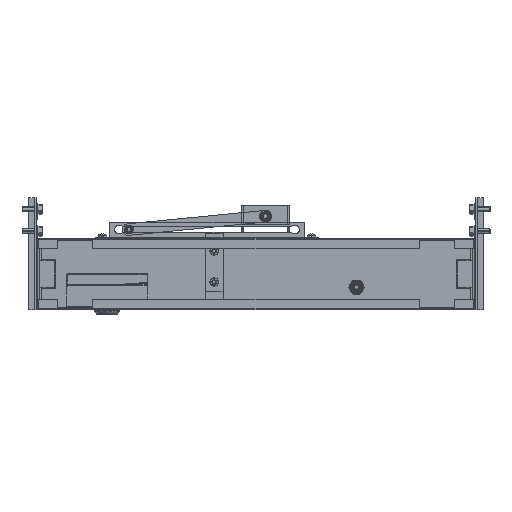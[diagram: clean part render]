
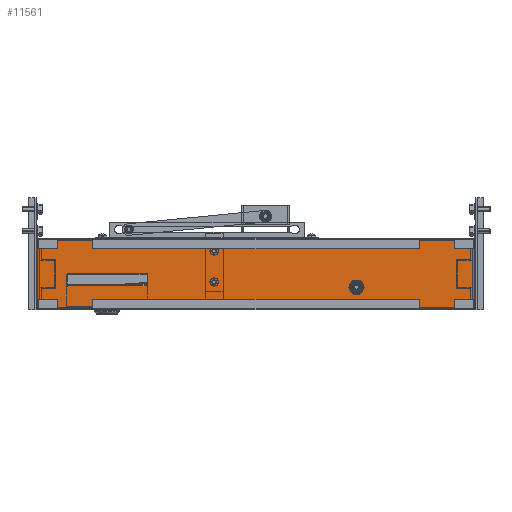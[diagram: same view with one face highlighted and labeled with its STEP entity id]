
A CAD part, front view. The second image highlights one B-rep face of the part: STEP entity #11561.
In plain terms, the highlighted planar face has unit normal (0, -1, 0).
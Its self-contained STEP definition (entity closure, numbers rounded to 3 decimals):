
#9653 = VERTEX_POINT('',#9654);
#9654 = CARTESIAN_POINT('',(-47.,-1.5,-6.9));
#9672 = VERTEX_POINT('',#9673);
#9673 = CARTESIAN_POINT('',(-47.,-1.5,-11.1));
#9679 = EDGE_CURVE('',#9653,#9672,#9680,.T.);
#9680 = CIRCLE('',#9681,2.1);
#9681 = AXIS2_PLACEMENT_3D('',#9682,#9683,#9684);
#9682 = CARTESIAN_POINT('',(-47.,-1.5,-9.));
#9683 = DIRECTION('',(0.,-1.,0.));
#9684 = DIRECTION('',(0.,0.,-1.));
#9695 = VERTEX_POINT('',#9696);
#9696 = CARTESIAN_POINT('',(-47.,-1.5,28.1));
#9714 = VERTEX_POINT('',#9715);
#9715 = CARTESIAN_POINT('',(-47.,-1.5,23.9));
#9721 = EDGE_CURVE('',#9695,#9714,#9722,.T.);
#9722 = CIRCLE('',#9723,2.1);
#9723 = AXIS2_PLACEMENT_3D('',#9724,#9725,#9726);
#9724 = CARTESIAN_POINT('',(-47.,-1.5,26.));
#9725 = DIRECTION('',(0.,-1.,0.));
#9726 = DIRECTION('',(0.,0.,-1.));
#9737 = VERTEX_POINT('',#9738);
#9738 = CARTESIAN_POINT('',(-122.5,-1.5,-13.6));
#9746 = EDGE_CURVE('',#9737,#9747,#9749,.T.);
#9747 = VERTEX_POINT('',#9748);
#9748 = CARTESIAN_POINT('',(-122.,-1.5,-13.6));
#9749 = LINE('',#9750,#9751);
#9750 = CARTESIAN_POINT('',(0.,-1.5,-13.6));
#9751 = VECTOR('',#9752,1.);
#9752 = DIRECTION('',(1.,0.,0.));
#11123 = VERTEX_POINT('',#11124);
#11124 = CARTESIAN_POINT('',(244.9,-1.5,-38.5));
#11130 = EDGE_CURVE('',#11131,#11123,#11133,.T.);
#11131 = VERTEX_POINT('',#11132);
#11132 = CARTESIAN_POINT('',(-244.9,-1.5,-38.5));
#11133 = LINE('',#11134,#11135);
#11134 = CARTESIAN_POINT('',(0.,-1.5,-38.5));
#11135 = VECTOR('',#11136,1.);
#11136 = DIRECTION('',(1.,0.,0.));
#11379 = VERTEX_POINT('',#11380);
#11380 = CARTESIAN_POINT('',(-244.9,-1.5,38.5));
#11386 = EDGE_CURVE('',#11387,#11379,#11389,.T.);
#11387 = VERTEX_POINT('',#11388);
#11388 = CARTESIAN_POINT('',(244.9,-1.5,38.5));
#11389 = LINE('',#11390,#11391);
#11390 = CARTESIAN_POINT('',(0.,-1.5,38.5));
#11391 = VECTOR('',#11392,1.);
#11392 = DIRECTION('',(-1.,0.,0.));
#11478 = EDGE_CURVE('',#11479,#11481,#11483,.T.);
#11479 = VERTEX_POINT('',#11480);
#11480 = CARTESIAN_POINT('',(-244.9,-1.5,-37.9));
#11481 = VERTEX_POINT('',#11482);
#11482 = CARTESIAN_POINT('',(-245.5,-1.5,-37.9));
#11483 = LINE('',#11484,#11485);
#11484 = CARTESIAN_POINT('',(0.,-1.5,-37.9));
#11485 = VECTOR('',#11486,1.);
#11486 = DIRECTION('',(-1.,-0.,-0.));
#11561 = ADVANCED_FACE('',(#11562,#11572,#11582,#11632,#11689),#11760,
  .T.);
#11562 = FACE_BOUND('',#11563,.T.);
#11563 = EDGE_LOOP('',(#11564,#11565));
#11564 = ORIENTED_EDGE('',*,*,#9679,.F.);
#11565 = ORIENTED_EDGE('',*,*,#11566,.F.);
#11566 = EDGE_CURVE('',#9672,#9653,#11567,.T.);
#11567 = CIRCLE('',#11568,2.1);
#11568 = AXIS2_PLACEMENT_3D('',#11569,#11570,#11571);
#11569 = CARTESIAN_POINT('',(-47.,-1.5,-9.));
#11570 = DIRECTION('',(0.,-1.,0.));
#11571 = DIRECTION('',(0.,0.,-1.));
#11572 = FACE_BOUND('',#11573,.T.);
#11573 = EDGE_LOOP('',(#11574,#11575));
#11574 = ORIENTED_EDGE('',*,*,#9721,.F.);
#11575 = ORIENTED_EDGE('',*,*,#11576,.F.);
#11576 = EDGE_CURVE('',#9714,#9695,#11577,.T.);
#11577 = CIRCLE('',#11578,2.1);
#11578 = AXIS2_PLACEMENT_3D('',#11579,#11580,#11581);
#11579 = CARTESIAN_POINT('',(-47.,-1.5,26.));
#11580 = DIRECTION('',(0.,-1.,0.));
#11581 = DIRECTION('',(0.,0.,-1.));
#11582 = FACE_BOUND('',#11583,.T.);
#11583 = EDGE_LOOP('',(#11584,#11594,#11602,#11610,#11618,#11626));
#11584 = ORIENTED_EDGE('',*,*,#11585,.F.);
#11585 = EDGE_CURVE('',#11586,#11588,#11590,.T.);
#11586 = VERTEX_POINT('',#11587);
#11587 = CARTESIAN_POINT('',(116.32,-1.5,-9.25));
#11588 = VERTEX_POINT('',#11589);
#11589 = CARTESIAN_POINT('',(109.68,-1.5,-9.25));
#11590 = LINE('',#11591,#11592);
#11591 = CARTESIAN_POINT('',(0.,-1.5,-9.25));
#11592 = VECTOR('',#11593,1.);
#11593 = DIRECTION('',(-1.,0.,0.));
#11594 = ORIENTED_EDGE('',*,*,#11595,.F.);
#11595 = EDGE_CURVE('',#11596,#11586,#11598,.T.);
#11596 = VERTEX_POINT('',#11597);
#11597 = CARTESIAN_POINT('',(119.64,-1.5,-15.));
#11598 = LINE('',#11599,#11600);
#11599 = CARTESIAN_POINT('',(83.234,-1.5,48.055));
#11600 = VECTOR('',#11601,1.);
#11601 = DIRECTION('',(-0.5,0.,0.866));
#11602 = ORIENTED_EDGE('',*,*,#11603,.F.);
#11603 = EDGE_CURVE('',#11604,#11596,#11606,.T.);
#11604 = VERTEX_POINT('',#11605);
#11605 = CARTESIAN_POINT('',(116.32,-1.5,-20.75));
#11606 = LINE('',#11607,#11608);
#11607 = CARTESIAN_POINT('',(96.225,-1.5,-55.555));
#11608 = VECTOR('',#11609,1.);
#11609 = DIRECTION('',(0.5,0.,0.866));
#11610 = ORIENTED_EDGE('',*,*,#11611,.F.);
#11611 = EDGE_CURVE('',#11612,#11604,#11614,.T.);
#11612 = VERTEX_POINT('',#11613);
#11613 = CARTESIAN_POINT('',(109.68,-1.5,-20.75));
#11614 = LINE('',#11615,#11616);
#11615 = CARTESIAN_POINT('',(0.,-1.5,-20.75));
#11616 = VECTOR('',#11617,1.);
#11617 = DIRECTION('',(1.,0.,0.));
#11618 = ORIENTED_EDGE('',*,*,#11619,.F.);
#11619 = EDGE_CURVE('',#11620,#11612,#11622,.T.);
#11620 = VERTEX_POINT('',#11621);
#11621 = CARTESIAN_POINT('',(106.36,-1.5,-15.));
#11622 = LINE('',#11623,#11624);
#11623 = CARTESIAN_POINT('',(73.275,-1.5,42.305));
#11624 = VECTOR('',#11625,1.);
#11625 = DIRECTION('',(0.5,0.,-0.866));
#11626 = ORIENTED_EDGE('',*,*,#11627,.F.);
#11627 = EDGE_CURVE('',#11588,#11620,#11628,.T.);
#11628 = LINE('',#11629,#11630);
#11629 = CARTESIAN_POINT('',(86.266,-1.5,-49.805));
#11630 = VECTOR('',#11631,1.);
#11631 = DIRECTION('',(-0.5,0.,-0.866));
#11632 = FACE_BOUND('',#11633,.T.);
#11633 = EDGE_LOOP('',(#11634,#11644,#11652,#11658,#11659,#11667,#11675,
    #11683));
#11634 = ORIENTED_EDGE('',*,*,#11635,.F.);
#11635 = EDGE_CURVE('',#11636,#11638,#11640,.T.);
#11636 = VERTEX_POINT('',#11637);
#11637 = CARTESIAN_POINT('',(-212.,-1.5,0.4));
#11638 = VERTEX_POINT('',#11639);
#11639 = CARTESIAN_POINT('',(-212.,-1.5,-13.6));
#11640 = LINE('',#11641,#11642);
#11641 = CARTESIAN_POINT('',(-212.,-1.5,0.));
#11642 = VECTOR('',#11643,1.);
#11643 = DIRECTION('',(0.,0.,-1.));
#11644 = ORIENTED_EDGE('',*,*,#11645,.F.);
#11645 = EDGE_CURVE('',#11646,#11636,#11648,.T.);
#11646 = VERTEX_POINT('',#11647);
#11647 = CARTESIAN_POINT('',(-122.,-1.5,0.4));
#11648 = LINE('',#11649,#11650);
#11649 = CARTESIAN_POINT('',(0.,-1.5,0.4));
#11650 = VECTOR('',#11651,1.);
#11651 = DIRECTION('',(-1.,0.,0.));
#11652 = ORIENTED_EDGE('',*,*,#11653,.F.);
#11653 = EDGE_CURVE('',#9747,#11646,#11654,.T.);
#11654 = LINE('',#11655,#11656);
#11655 = CARTESIAN_POINT('',(-122.,-1.5,0.));
#11656 = VECTOR('',#11657,1.);
#11657 = DIRECTION('',(0.,0.,1.));
#11658 = ORIENTED_EDGE('',*,*,#9746,.F.);
#11659 = ORIENTED_EDGE('',*,*,#11660,.T.);
#11660 = EDGE_CURVE('',#9737,#11661,#11663,.T.);
#11661 = VERTEX_POINT('',#11662);
#11662 = CARTESIAN_POINT('',(-122.5,-1.5,-13.));
#11663 = LINE('',#11664,#11665);
#11664 = CARTESIAN_POINT('',(-122.5,-1.5,-13.6));
#11665 = VECTOR('',#11666,1.);
#11666 = DIRECTION('',(-0.,-0.,1.));
#11667 = ORIENTED_EDGE('',*,*,#11668,.T.);
#11668 = EDGE_CURVE('',#11661,#11669,#11671,.T.);
#11669 = VERTEX_POINT('',#11670);
#11670 = CARTESIAN_POINT('',(-211.5,-1.5,-13.));
#11671 = LINE('',#11672,#11673);
#11672 = CARTESIAN_POINT('',(0.,-1.5,-13.));
#11673 = VECTOR('',#11674,1.);
#11674 = DIRECTION('',(-1.,-0.,0.));
#11675 = ORIENTED_EDGE('',*,*,#11676,.F.);
#11676 = EDGE_CURVE('',#11677,#11669,#11679,.T.);
#11677 = VERTEX_POINT('',#11678);
#11678 = CARTESIAN_POINT('',(-211.5,-1.5,-13.6));
#11679 = LINE('',#11680,#11681);
#11680 = CARTESIAN_POINT('',(-211.5,-1.5,0.));
#11681 = VECTOR('',#11682,1.);
#11682 = DIRECTION('',(-0.,0.,1.));
#11683 = ORIENTED_EDGE('',*,*,#11684,.F.);
#11684 = EDGE_CURVE('',#11638,#11677,#11685,.T.);
#11685 = LINE('',#11686,#11687);
#11686 = CARTESIAN_POINT('',(0.,-1.5,-13.6));
#11687 = VECTOR('',#11688,1.);
#11688 = DIRECTION('',(1.,0.,0.));
#11689 = FACE_BOUND('',#11690,.T.);
#11690 = EDGE_LOOP('',(#11691,#11701,#11707,#11708,#11716,#11724,#11730,
    #11731,#11737,#11738,#11746,#11754));
#11691 = ORIENTED_EDGE('',*,*,#11692,.F.);
#11692 = EDGE_CURVE('',#11693,#11695,#11697,.T.);
#11693 = VERTEX_POINT('',#11694);
#11694 = CARTESIAN_POINT('',(244.9,-1.5,37.9));
#11695 = VERTEX_POINT('',#11696);
#11696 = CARTESIAN_POINT('',(245.5,-1.5,37.9));
#11697 = LINE('',#11698,#11699);
#11698 = CARTESIAN_POINT('',(0.,-1.5,37.9));
#11699 = VECTOR('',#11700,1.);
#11700 = DIRECTION('',(1.,-0.,-0.));
#11701 = ORIENTED_EDGE('',*,*,#11702,.T.);
#11702 = EDGE_CURVE('',#11693,#11387,#11703,.T.);
#11703 = LINE('',#11704,#11705);
#11704 = CARTESIAN_POINT('',(244.9,-1.5,37.9));
#11705 = VECTOR('',#11706,1.);
#11706 = DIRECTION('',(-0.,-0.,1.));
#11707 = ORIENTED_EDGE('',*,*,#11386,.T.);
#11708 = ORIENTED_EDGE('',*,*,#11709,.F.);
#11709 = EDGE_CURVE('',#11710,#11379,#11712,.T.);
#11710 = VERTEX_POINT('',#11711);
#11711 = CARTESIAN_POINT('',(-244.9,-1.5,37.9));
#11712 = LINE('',#11713,#11714);
#11713 = CARTESIAN_POINT('',(-244.9,-1.5,0.));
#11714 = VECTOR('',#11715,1.);
#11715 = DIRECTION('',(-0.,0.,1.));
#11716 = ORIENTED_EDGE('',*,*,#11717,.T.);
#11717 = EDGE_CURVE('',#11710,#11718,#11720,.T.);
#11718 = VERTEX_POINT('',#11719);
#11719 = CARTESIAN_POINT('',(-245.5,-1.5,37.9));
#11720 = LINE('',#11721,#11722);
#11721 = CARTESIAN_POINT('',(-244.9,-1.5,37.9));
#11722 = VECTOR('',#11723,1.);
#11723 = DIRECTION('',(-1.,-0.,-0.));
#11724 = ORIENTED_EDGE('',*,*,#11725,.F.);
#11725 = EDGE_CURVE('',#11481,#11718,#11726,.T.);
#11726 = LINE('',#11727,#11728);
#11727 = CARTESIAN_POINT('',(-245.5,-1.5,0.));
#11728 = VECTOR('',#11729,1.);
#11729 = DIRECTION('',(0.,0.,1.));
#11730 = ORIENTED_EDGE('',*,*,#11478,.F.);
#11731 = ORIENTED_EDGE('',*,*,#11732,.T.);
#11732 = EDGE_CURVE('',#11479,#11131,#11733,.T.);
#11733 = LINE('',#11734,#11735);
#11734 = CARTESIAN_POINT('',(-244.9,-1.5,-37.9));
#11735 = VECTOR('',#11736,1.);
#11736 = DIRECTION('',(-0.,-0.,-1.));
#11737 = ORIENTED_EDGE('',*,*,#11130,.T.);
#11738 = ORIENTED_EDGE('',*,*,#11739,.F.);
#11739 = EDGE_CURVE('',#11740,#11123,#11742,.T.);
#11740 = VERTEX_POINT('',#11741);
#11741 = CARTESIAN_POINT('',(244.9,-1.5,-37.9));
#11742 = LINE('',#11743,#11744);
#11743 = CARTESIAN_POINT('',(244.9,-1.5,0.));
#11744 = VECTOR('',#11745,1.);
#11745 = DIRECTION('',(0.,0.,-1.));
#11746 = ORIENTED_EDGE('',*,*,#11747,.T.);
#11747 = EDGE_CURVE('',#11740,#11748,#11750,.T.);
#11748 = VERTEX_POINT('',#11749);
#11749 = CARTESIAN_POINT('',(245.5,-1.5,-37.9));
#11750 = LINE('',#11751,#11752);
#11751 = CARTESIAN_POINT('',(244.9,-1.5,-37.9));
#11752 = VECTOR('',#11753,1.);
#11753 = DIRECTION('',(1.,-0.,-0.));
#11754 = ORIENTED_EDGE('',*,*,#11755,.T.);
#11755 = EDGE_CURVE('',#11748,#11695,#11756,.T.);
#11756 = LINE('',#11757,#11758);
#11757 = CARTESIAN_POINT('',(245.5,-1.5,0.));
#11758 = VECTOR('',#11759,1.);
#11759 = DIRECTION('',(-0.,-0.,1.));
#11760 = PLANE('',#11761);
#11761 = AXIS2_PLACEMENT_3D('',#11762,#11763,#11764);
#11762 = CARTESIAN_POINT('',(0.,-1.5,0.));
#11763 = DIRECTION('',(0.,-1.,0.));
#11764 = DIRECTION('',(0.,-0.,-1.));
